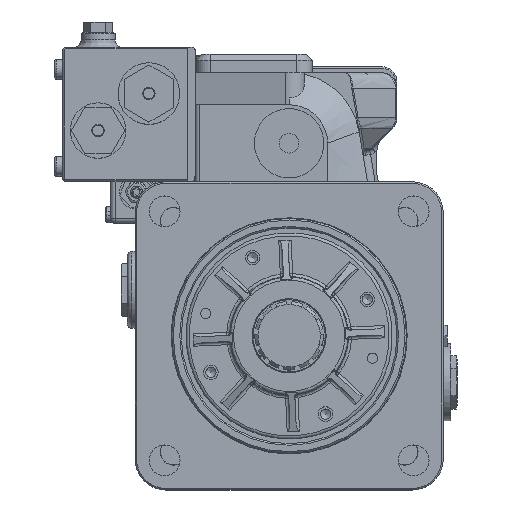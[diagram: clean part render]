
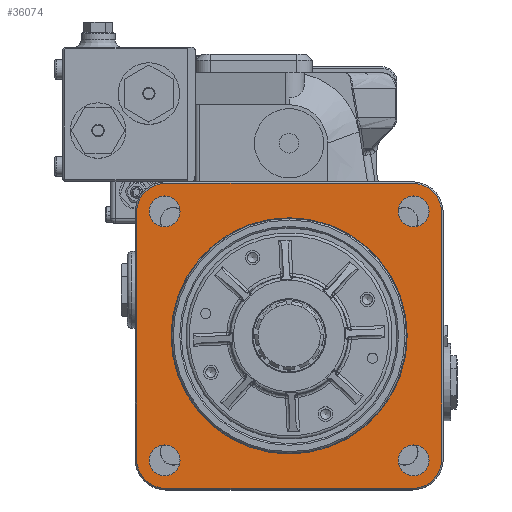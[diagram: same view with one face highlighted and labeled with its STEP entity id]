
A CAD part, top view. The second image highlights one B-rep face of the part: STEP entity #36074.
In plain terms, the highlighted planar face has unit normal (0, 0, 1).
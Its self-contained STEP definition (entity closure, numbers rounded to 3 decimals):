
#35840=CARTESIAN_POINT('',(76.6,0.,23.));
#35841=VERTEX_POINT('',#35840);
#35842=CARTESIAN_POINT('',(0.0,0.0,23.));
#35843=DIRECTION('',(0.0,0.0,1.0));
#35844=DIRECTION('',(-1.0,0.0,0.0));
#35845=AXIS2_PLACEMENT_3D('',#35842,#35843,#35844);
#35846=CIRCLE('',#35845,76.6);
#35847=EDGE_CURVE('',#35841,#35841,#35846,.T.);
#35952=CARTESIAN_POINT('',(0.,0.,23.));
#35953=DIRECTION('',(0.0,0.0,1.0));
#35954=DIRECTION('',(1.0,0.0,0.0));
#35955=AXIS2_PLACEMENT_3D('',#35952,#35953,#35954);
#35956=PLANE('',#35955);
#35957=CARTESIAN_POINT('',(-80.0,99.0,23.));
#35958=VERTEX_POINT('',#35957);
#35959=CARTESIAN_POINT('',(80.0,99.0,23.));
#35960=VERTEX_POINT('',#35959);
#35961=CARTESIAN_POINT('',(-80.0,99.0,23.));
#35962=DIRECTION('',(1.0,0.0,0.0));
#35963=VECTOR('',#35962,160.0);
#35964=LINE('',#35961,#35963);
#35965=EDGE_CURVE('',#35958,#35960,#35964,.T.);
#35966=ORIENTED_EDGE('',*,*,#35965,.F.);
#35967=CARTESIAN_POINT('',(-99.,80.0,23.));
#35968=VERTEX_POINT('',#35967);
#35969=CARTESIAN_POINT('',(-80.,80.,23.));
#35970=DIRECTION('',(0.0,0.0,-1.0));
#35971=DIRECTION('',(0.0,1.0,0.0));
#35972=AXIS2_PLACEMENT_3D('',#35969,#35970,#35971);
#35973=CIRCLE('',#35972,19.0);
#35974=EDGE_CURVE('',#35968,#35958,#35973,.T.);
#35975=ORIENTED_EDGE('',*,*,#35974,.F.);
#35976=CARTESIAN_POINT('',(-99.,-80.0,23.));
#35977=VERTEX_POINT('',#35976);
#35978=CARTESIAN_POINT('',(-99.,-80.0,23.));
#35979=DIRECTION('',(0.0,1.0,0.0));
#35980=VECTOR('',#35979,160.0);
#35981=LINE('',#35978,#35980);
#35982=EDGE_CURVE('',#35977,#35968,#35981,.T.);
#35983=ORIENTED_EDGE('',*,*,#35982,.F.);
#35984=CARTESIAN_POINT('',(-80.,-99.0,23.));
#35985=VERTEX_POINT('',#35984);
#35986=CARTESIAN_POINT('',(-80.,-80.,23.));
#35987=DIRECTION('',(0.0,0.0,-1.0));
#35988=DIRECTION('',(-1.0,0.0,0.0));
#35989=AXIS2_PLACEMENT_3D('',#35986,#35987,#35988);
#35990=CIRCLE('',#35989,19.);
#35991=EDGE_CURVE('',#35985,#35977,#35990,.T.);
#35992=ORIENTED_EDGE('',*,*,#35991,.F.);
#35993=CARTESIAN_POINT('',(80.,-99.,23.));
#35994=VERTEX_POINT('',#35993);
#35995=CARTESIAN_POINT('',(80.,-99.,23.));
#35996=DIRECTION('',(-1.0,0.0,0.0));
#35997=VECTOR('',#35996,160.);
#35998=LINE('',#35995,#35997);
#35999=EDGE_CURVE('',#35994,#35985,#35998,.T.);
#36000=ORIENTED_EDGE('',*,*,#35999,.F.);
#36001=CARTESIAN_POINT('',(99.,-80.0,23.));
#36002=VERTEX_POINT('',#36001);
#36003=CARTESIAN_POINT('',(80.,-80.,23.));
#36004=DIRECTION('',(0.0,0.0,-1.0));
#36005=DIRECTION('',(0.0,-1.0,0.0));
#36006=AXIS2_PLACEMENT_3D('',#36003,#36004,#36005);
#36007=CIRCLE('',#36006,19.);
#36008=EDGE_CURVE('',#36002,#35994,#36007,.T.);
#36009=ORIENTED_EDGE('',*,*,#36008,.F.);
#36010=CARTESIAN_POINT('',(99.,80.0,23.));
#36011=VERTEX_POINT('',#36010);
#36012=CARTESIAN_POINT('',(99.,80.0,23.));
#36013=DIRECTION('',(0.0,-1.0,0.0));
#36014=VECTOR('',#36013,160.0);
#36015=LINE('',#36012,#36014);
#36016=EDGE_CURVE('',#36011,#36002,#36015,.T.);
#36017=ORIENTED_EDGE('',*,*,#36016,.F.);
#36018=CARTESIAN_POINT('',(80.,80.,23.));
#36019=DIRECTION('',(0.0,0.0,-1.0));
#36020=DIRECTION('',(1.0,0.0,0.0));
#36021=AXIS2_PLACEMENT_3D('',#36018,#36019,#36020);
#36022=CIRCLE('',#36021,19.0);
#36023=EDGE_CURVE('',#35960,#36011,#36022,.T.);
#36024=ORIENTED_EDGE('',*,*,#36023,.F.);
#36025=EDGE_LOOP('',(#35966,#35975,#35983,#35992,#36000,#36009,#36017,#36024));
#36026=FACE_OUTER_BOUND('',#36025,.T.);
#36027=CARTESIAN_POINT('',(90.8,-80.8,23.));
#36028=VERTEX_POINT('',#36027);
#36029=CARTESIAN_POINT('',(80.8,-80.8,23.));
#36030=DIRECTION('',(0.0,0.0,-1.0));
#36031=DIRECTION('',(-1.0,0.0,0.0));
#36032=AXIS2_PLACEMENT_3D('',#36029,#36030,#36031);
#36033=CIRCLE('',#36032,10.0);
#36034=EDGE_CURVE('',#36028,#36028,#36033,.T.);
#36035=ORIENTED_EDGE('',*,*,#36034,.T.);
#36036=EDGE_LOOP('',(#36035));
#36037=FACE_BOUND('',#36036,.T.);
#36038=CARTESIAN_POINT('',(-70.8,80.8,23.));
#36039=VERTEX_POINT('',#36038);
#36040=CARTESIAN_POINT('',(-80.8,80.8,23.));
#36041=DIRECTION('',(0.0,0.0,-1.0));
#36042=DIRECTION('',(-1.0,0.0,0.0));
#36043=AXIS2_PLACEMENT_3D('',#36040,#36041,#36042);
#36044=CIRCLE('',#36043,10.0);
#36045=EDGE_CURVE('',#36039,#36039,#36044,.T.);
#36046=ORIENTED_EDGE('',*,*,#36045,.T.);
#36047=EDGE_LOOP('',(#36046));
#36048=FACE_BOUND('',#36047,.T.);
#36049=CARTESIAN_POINT('',(90.8,80.8,23.));
#36050=VERTEX_POINT('',#36049);
#36051=CARTESIAN_POINT('',(80.8,80.8,23.));
#36052=DIRECTION('',(0.0,0.0,-1.0));
#36053=DIRECTION('',(-1.0,0.0,0.0));
#36054=AXIS2_PLACEMENT_3D('',#36051,#36052,#36053);
#36055=CIRCLE('',#36054,10.0);
#36056=EDGE_CURVE('',#36050,#36050,#36055,.T.);
#36057=ORIENTED_EDGE('',*,*,#36056,.T.);
#36058=EDGE_LOOP('',(#36057));
#36059=FACE_BOUND('',#36058,.T.);
#36060=CARTESIAN_POINT('',(-70.8,-80.8,23.));
#36061=VERTEX_POINT('',#36060);
#36062=CARTESIAN_POINT('',(-80.8,-80.8,23.));
#36063=DIRECTION('',(0.0,0.0,-1.0));
#36064=DIRECTION('',(-1.0,0.0,0.0));
#36065=AXIS2_PLACEMENT_3D('',#36062,#36063,#36064);
#36066=CIRCLE('',#36065,10.0);
#36067=EDGE_CURVE('',#36061,#36061,#36066,.T.);
#36068=ORIENTED_EDGE('',*,*,#36067,.T.);
#36069=EDGE_LOOP('',(#36068));
#36070=FACE_BOUND('',#36069,.T.);
#36071=ORIENTED_EDGE('',*,*,#35847,.F.);
#36072=EDGE_LOOP('',(#36071));
#36073=FACE_BOUND('',#36072,.T.);
#36074=ADVANCED_FACE('',(#36026,#36037,#36048,#36059,#36070,#36073),#35956,.T.);
